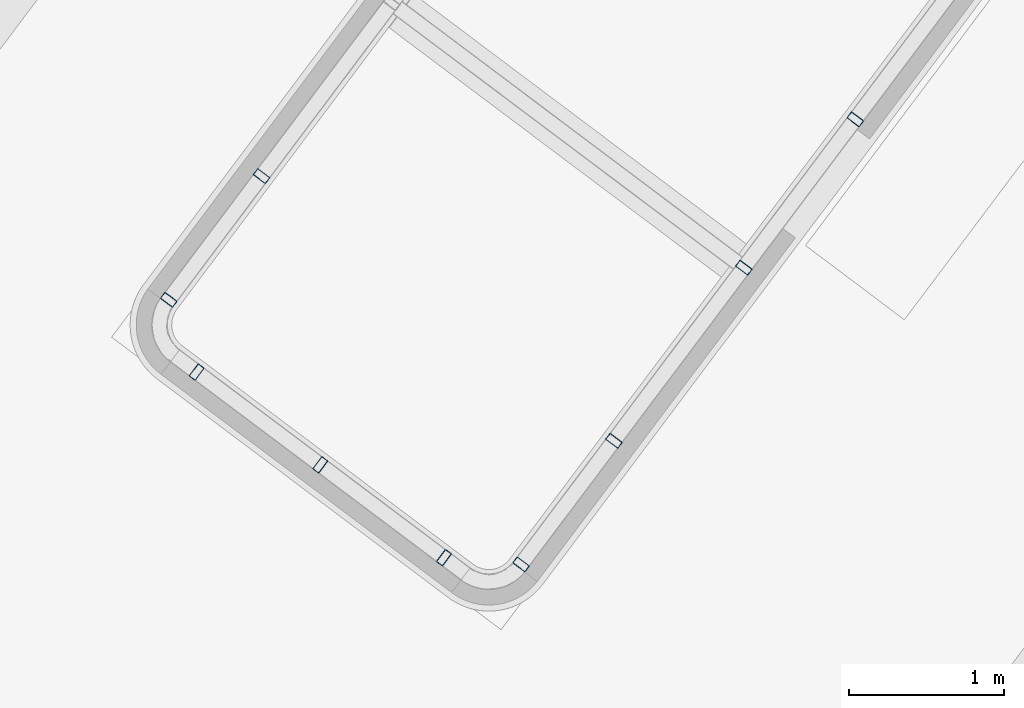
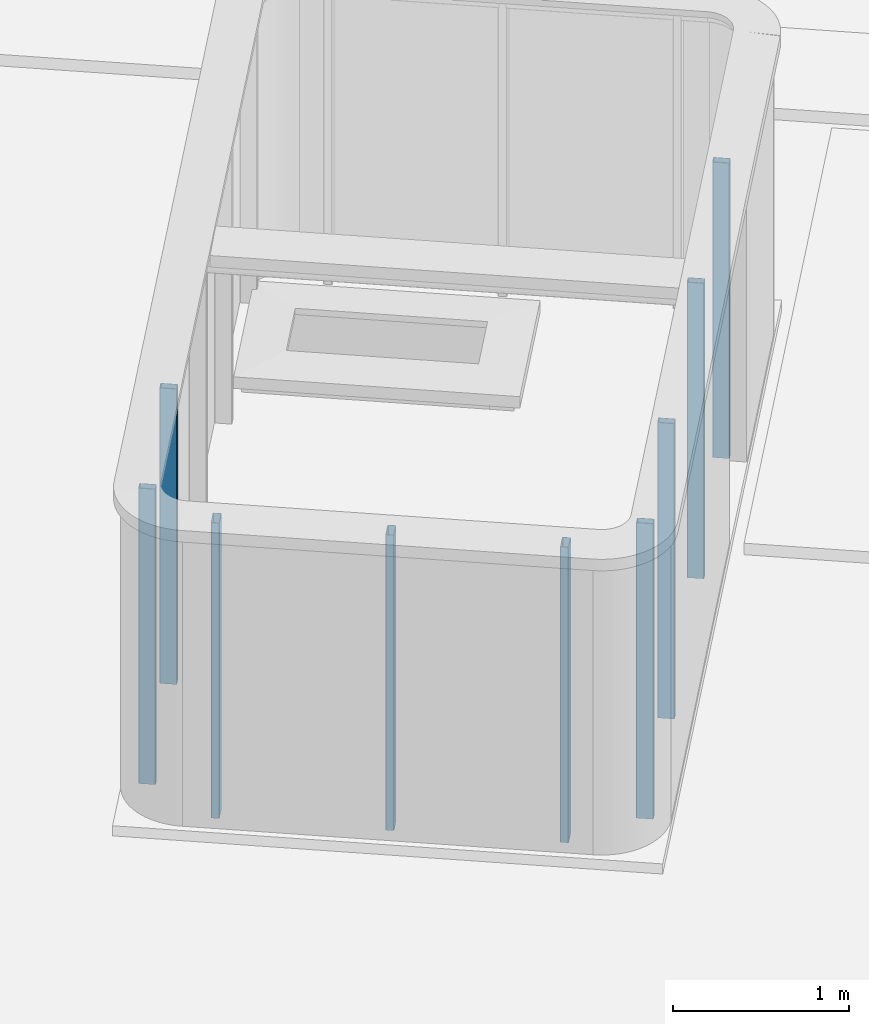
# One storey, part 9 of 28: 9 columns.
"""IFC2X3 building model written with IfcOpenShell, lengths in metres."""

from ifc_helpers import new_model, entity, si_unit, converted_unit, derived_unit, direction, frame, frame_2d, origin, place, context, subcontext, project, spatial, polyline, circle_curve, parameter, trimmed, segment, composite_curve, outline, extrude, source, transform, mapped, material, type_object, type_shapes, element, save


model = new_model("IFC2X3")

# Units and contexts
model_context = context("Model", 3, precision=1e-05, world=origin(), true_north=direction((6.123031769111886e-17, 1.0)))
body_context = subcontext(model_context, "Body", "Model", "MODEL_VIEW")
ifc_project = project(units=[si_unit("LENGTHUNIT", "METRE"), si_unit("AREAUNIT", "SQUARE_METRE"), si_unit("VOLUMEUNIT", "CUBIC_METRE"), converted_unit("PLANEANGLEUNIT", "DEGREE", entity("IfcRatioMeasure", 0.017453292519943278), si_unit("PLANEANGLEUNIT", "RADIAN"), dimensions=[0, 0, 0, 0, 0, 0, 0]), si_unit("MASSUNIT", "GRAM", prefix="KILO"), derived_unit("MASSDENSITYUNIT", [(si_unit("MASSUNIT", "GRAM", prefix="KILO"), 1), (si_unit("LENGTHUNIT", "METRE"), -3)]), derived_unit("IONCONCENTRATIONUNIT", [(si_unit("MASSUNIT", "GRAM", prefix="KILO"), 1), (si_unit("LENGTHUNIT", "METRE"), -3)]), derived_unit("MOMENTOFINERTIAUNIT", [(si_unit("LENGTHUNIT", "METRE"), 4)]), si_unit("TIMEUNIT", "SECOND"), si_unit("FREQUENCYUNIT", "HERTZ"), si_unit("THERMODYNAMICTEMPERATUREUNIT", "DEGREE_CELSIUS"), derived_unit("THERMALTRANSMITTANCEUNIT", [(si_unit("MASSUNIT", "GRAM", prefix="KILO"), 1), (si_unit("THERMODYNAMICTEMPERATUREUNIT", "KELVIN"), -1), (si_unit("TIMEUNIT", "SECOND"), -3)]), derived_unit("THERMALCONDUCTANCEUNIT", [(si_unit("MASSUNIT", "GRAM", prefix="KILO"), 1), (si_unit("THERMODYNAMICTEMPERATUREUNIT", "KELVIN"), -1), (si_unit("TIMEUNIT", "SECOND"), -3), (si_unit("LENGTHUNIT", "METRE"), 1)]), derived_unit("VOLUMETRICFLOWRATEUNIT", [(si_unit("LENGTHUNIT", "METRE"), 3), (si_unit("TIMEUNIT", "SECOND"), -1)]), derived_unit("MASSFLOWRATEUNIT", [(si_unit("MASSUNIT", "GRAM", prefix="KILO"), 1), (si_unit("TIMEUNIT", "SECOND"), -1)]), derived_unit("ROTATIONALFREQUENCYUNIT", [(si_unit("TIMEUNIT", "SECOND"), -1)]), si_unit("ELECTRICCURRENTUNIT", "AMPERE"), si_unit("ELECTRICVOLTAGEUNIT", "VOLT"), si_unit("POWERUNIT", "WATT"), si_unit("FORCEUNIT", "NEWTON", prefix="KILO"), si_unit("ILLUMINANCEUNIT", "LUX"), si_unit("LUMINOUSFLUXUNIT", "LUMEN"), si_unit("LUMINOUSINTENSITYUNIT", "CANDELA"), derived_unit("USERDEFINED", [(si_unit("MASSUNIT", "GRAM", prefix="KILO"), -1), (si_unit("LENGTHUNIT", "METRE"), -2), (si_unit("TIMEUNIT", "SECOND"), 3), (si_unit("LUMINOUSFLUXUNIT", "LUMEN"), 1)]), derived_unit("USERDEFINED", [(si_unit("MASSUNIT", "GRAM", prefix="KILO"), 1), (si_unit("TIMEUNIT", "SECOND"), -3), (si_unit("LENGTHUNIT", "METRE"), 3), (si_unit("ELECTRICCURRENTUNIT", "AMPERE"), -2)]), derived_unit("SOUNDPOWERUNIT", [(si_unit("MASSUNIT", "GRAM", prefix="KILO"), 1), (si_unit("TIMEUNIT", "SECOND"), -3), (si_unit("LENGTHUNIT", "METRE"), 2)]), derived_unit("SOUNDPRESSUREUNIT", [(si_unit("MASSUNIT", "GRAM", prefix="KILO"), 1), (si_unit("LENGTHUNIT", "METRE"), -1), (si_unit("TIMEUNIT", "SECOND"), -2)]), derived_unit("LINEARVELOCITYUNIT", [(si_unit("LENGTHUNIT", "METRE"), 1), (si_unit("TIMEUNIT", "SECOND"), -1)]), si_unit("PRESSUREUNIT", "PASCAL"), derived_unit("USERDEFINED", [(si_unit("MASSUNIT", "GRAM", prefix="KILO"), 1), (si_unit("LENGTHUNIT", "METRE"), -2), (si_unit("TIMEUNIT", "SECOND"), -2)]), derived_unit("LINEARFORCEUNIT", [(si_unit("MASSUNIT", "GRAM", prefix="KILO"), 1), (si_unit("TIMEUNIT", "SECOND"), -2)]), derived_unit("PLANARFORCEUNIT", [(si_unit("MASSUNIT", "GRAM", prefix="KILO"), 1), (si_unit("LENGTHUNIT", "METRE"), -1), (si_unit("TIMEUNIT", "SECOND"), -2)]), derived_unit("SPECIFICHEATCAPACITYUNIT", [(si_unit("THERMODYNAMICTEMPERATUREUNIT", "KELVIN"), -1), (si_unit("LENGTHUNIT", "METRE"), 2), (si_unit("TIMEUNIT", "SECOND"), -2)]), derived_unit("HEATINGVALUEUNIT", [(si_unit("LENGTHUNIT", "METRE"), 2), (si_unit("TIMEUNIT", "SECOND"), -2)]), derived_unit("VAPORPERMEABILITYUNIT", [(si_unit("LENGTHUNIT", "METRE"), -1), (si_unit("TIMEUNIT", "SECOND"), 1)]), derived_unit("DYNAMICVISCOSITYUNIT", [(si_unit("MASSUNIT", "GRAM", prefix="KILO"), 1), (si_unit("TIMEUNIT", "SECOND"), -1), (si_unit("LENGTHUNIT", "METRE"), -1)]), derived_unit("THERMALEXPANSIONCOEFFICIENTUNIT", [(si_unit("THERMODYNAMICTEMPERATUREUNIT", "KELVIN"), -1)]), derived_unit("MODULUSOFELASTICITYUNIT", [(si_unit("MASSUNIT", "GRAM", prefix="KILO"), 1), (si_unit("LENGTHUNIT", "METRE"), -1), (si_unit("TIMEUNIT", "SECOND"), -2)]), derived_unit("ISOTHERMALMOISTURECAPACITYUNIT", [(si_unit("LENGTHUNIT", "METRE"), 3), (si_unit("MASSUNIT", "GRAM", prefix="KILO"), -1)]), derived_unit("MOISTUREDIFFUSIVITYUNIT", [(si_unit("TIMEUNIT", "SECOND"), -1), (si_unit("LENGTHUNIT", "METRE"), 2)])], contexts=[model_context])

# Site, building, storey
site_placement = place(None, frame((0.0, 0.0, 235.0), z_axis=(0.0, 0.0, 1.0), x_axis=(-0.7996477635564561, 0.6004693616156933, 0.0)))
site = spatial("IfcSite", under=ifc_project, at=site_placement, Name="Default", CompositionType="ELEMENT")
building_placement = place(site_placement, origin())
building = spatial("IfcBuilding", under=site, at=building_placement, CompositionType="ELEMENT")
storey_placement = place(building_placement, frame((0.0, 0.0, 3.400000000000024)))
storey = spatial("IfcBuildingStorey", under=building, at=storey_placement, Name="PC- Coberta STR", CompositionType="ELEMENT", Elevation=3.400000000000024)

# Columns
ifc_material = material(Name="Metal - Acero - 345 MPa")
column_type = type_object("IfcColumnType", Name="STR- P- Acer- RHS- Rectangular- T1:100 x 50RHS", PredefinedType="COLUMN", material=ifc_material)
shared_shape = source(origin(), body_context, "Body", "SweptSolid", [
    extrude(outline(composite_curve([segment(polyline([(-0.01900000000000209, -0.04999999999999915), (0.019000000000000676, -0.04999999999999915)]), True, "CONTINUOUS"), segment(trimmed(circle_curve(frame_2d((0.019000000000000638, -0.04400000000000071), x_axis=(-1.0, 0.0)), 0.005999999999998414), [parameter(90.00000000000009)], [parameter(180.0000000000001)], True, "PARAMETER"), True, "CONTINUOUS"), segment(polyline([(0.024999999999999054, -0.044000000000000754), (0.02499999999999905, 0.044000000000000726)]), True, "CONTINUOUS"), segment(trimmed(circle_curve(frame_2d((0.018999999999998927, 0.044000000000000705), x_axis=(-1.0, 0.0)), 0.006000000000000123), [parameter(179.9999999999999)], [parameter(269.99999999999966)], True, "PARAMETER"), True, "CONTINUOUS"), segment(polyline([(0.018999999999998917, 0.05000000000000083), (-0.01899999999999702, 0.050000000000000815)]), True, "CONTINUOUS"), segment(trimmed(circle_curve(frame_2d((-0.018999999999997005, 0.043999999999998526), x_axis=(-1.0, 0.0)), 0.006000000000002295), [parameter(269.99999999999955)], [parameter(359.9999999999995)], True, "PARAMETER"), True, "CONTINUOUS"), segment(polyline([(-0.024999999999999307, 0.04399999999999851), (-0.024999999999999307, -0.04400000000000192)]), True, "CONTINUOUS"), segment(trimmed(circle_curve(frame_2d((-0.019000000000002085, -0.04400000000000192), x_axis=(-1.0, 0.0)), 0.005999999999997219), [parameter(359.9999999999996)], [parameter(89.99999999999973)], True, "PARAMETER"), True, "CONTINUOUS")], self_intersect=False), holes=[composite_curve([segment(trimmed(circle_curve(frame_2d((-0.019000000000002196, -0.044000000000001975), x_axis=(-1.0, 0.0)), 0.0029999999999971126), [parameter(0.0)], [parameter(90.00000000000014)], True, "PARAMETER"), False, "CONTINUOUS"), segment(polyline([(-0.021999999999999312, -0.044000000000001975), (-0.021999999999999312, 0.04400000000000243)]), True, "CONTINUOUS"), segment(trimmed(circle_curve(frame_2d((-0.019000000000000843, 0.04400000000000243), x_axis=(-1.0, 0.0)), 0.00299999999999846), [parameter(269.99999999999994)], [parameter(0.0)], True, "PARAMETER"), False, "CONTINUOUS"), segment(polyline([(-0.01900000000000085, 0.0470000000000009), (0.01899999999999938, 0.04700000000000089)]), True, "CONTINUOUS"), segment(trimmed(circle_curve(frame_2d((0.018999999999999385, 0.04399999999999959), x_axis=(-1.0, 0.0)), 0.0030000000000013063), [parameter(179.99999999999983)], [parameter(270.0)], True, "PARAMETER"), False, "CONTINUOUS"), segment(polyline([(0.022000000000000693, 0.04399999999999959), (0.022000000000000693, -0.04399999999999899)]), True, "CONTINUOUS"), segment(trimmed(circle_curve(frame_2d((0.019000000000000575, -0.043999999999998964), x_axis=(-1.0, 0.0)), 0.0030000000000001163), [parameter(90.00000000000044)], [parameter(180.0000000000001)], True, "PARAMETER"), False, "CONTINUOUS"), segment(polyline([(0.019000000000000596, -0.04699999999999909), (-0.019000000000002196, -0.04699999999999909)]), True, "CONTINUOUS")], self_intersect=False)]), frame((0.02658749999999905, 0.051587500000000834, 0.0), z_axis=(0.0, 0.0, 1.0), x_axis=(-1.0, 0.0, 0.0)), (0.0, 0.0, 1.0), 2.05),
])
type_shapes(column_type, [shared_shape])
for number, where, z_axis, x_axis, name in (
    (1, (59.80859795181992, -33.45360425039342, 0.4), (0.0, 0.0, 1.0), (0.0, -1.0, 0.0), "STR- P- Acer- RHS- Rectangular- T1:100 x 50RHS"),
    (2, (59.46177293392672, -32.16360425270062, 0.4), (0.0, 0.0, 1.0), (-1.0, 0.0, 0.0), "STR- P- Acer- RHS- Rectangular- T1:100 x 50RHS"),
    (3, (58.461772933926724, -32.163604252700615, 0.4), (0.0, 0.0, 1.0), (-1.0, 0.0, 0.0), "STR- P- Acer- RHS- Rectangular- T1:100 x 50RHS"),
    (4, (57.46177293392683, -32.16360425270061, 0.4), (0.0, 0.0, 1.0), (-1.0, 0.0, 0.0), "STR- P- Acer- RHS- Rectangular- T1:100 x 50RHS"),
    (5, (59.80859795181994, -32.45360425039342, 0.4), (0.0, 0.0, 1.0), (0.0, -1.0, 0.0), "STR- P- Acer- RHS- Rectangular- T1:100 x 50RHS"),
    (6, (56.95859787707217, -33.4536042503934, 0.4), (0.0, 0.0, 1.0), (0.0, -1.0, 0.0), "STR- P- Acer- RHS- Rectangular- T1:100 x 50RHS"),
    (7, (56.95859787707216, -34.8536042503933, 0.4), (0.0, 0.0, 1.0), (0.0, -1.0, 0.0), "STR- P- Acer- RHS- Rectangular- T1:100 x 50RHS"),
    (8, (56.95859787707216, -36.05360425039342, 0.4), (0.0, 0.0, 1.0), (0.0, -1.0, 0.0), "STR- P- Acer- RHS- Rectangular- T1:100 x 50RHS"),
    (9, (56.958597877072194, -32.453604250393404, 0.4), (0.0, 0.0, 1.0), (0.0, -1.0, 0.0), "STR- P- Acer- RHS- Rectangular- T1:100 x 50RHS"),
):
    element("IfcColumn", number, at=place(storey_placement, frame(where, z_axis=z_axis, x_axis=x_axis)), inside=storey, type_object=column_type, material=ifc_material, Name=name, ObjectType="STR- P- Acer- RHS- Rectangular- T1:100 x 50RHS", context=body_context, shape_type="MappedRepresentation", body=[
        mapped(shared_shape, transform((0.0, 0.0, 0.0), scale=1.0)),
    ])

save(model, "model.ifc")
